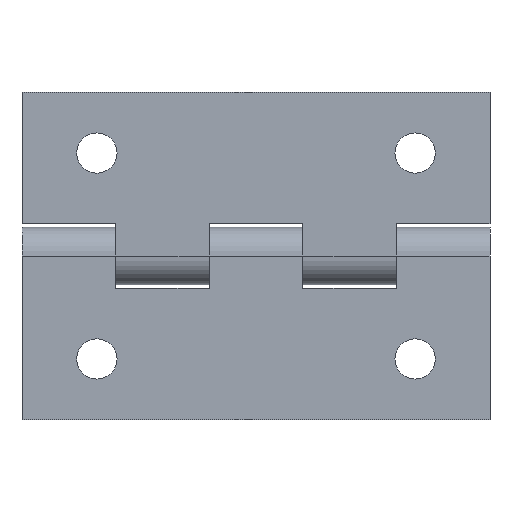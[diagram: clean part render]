
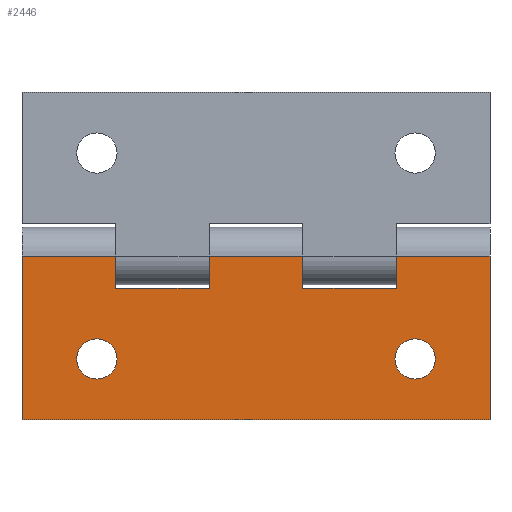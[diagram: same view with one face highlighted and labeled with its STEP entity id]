
A CAD part, front view. The second image highlights one B-rep face of the part: STEP entity #2446.
In plain terms, the highlighted planar face has unit normal (0, -1, 0).
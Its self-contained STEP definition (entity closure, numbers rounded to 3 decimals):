
#14 = VERTEX_POINT ( 'NONE', #2038 ) ;
#21 = CARTESIAN_POINT ( 'NONE',  ( -15., 0., -3.45 ) ) ;
#28 = ORIENTED_EDGE ( 'NONE', *, *, #834, .T. ) ;
#32 = VERTEX_POINT ( 'NONE', #1546 ) ;
#34 = DIRECTION ( 'NONE',  ( 0., 0., -1. ) ) ;
#57 = ORIENTED_EDGE ( 'NONE', *, *, #1215, .T. ) ;
#79 = ORIENTED_EDGE ( 'NONE', *, *, #557, .T. ) ;
#85 = VERTEX_POINT ( 'NONE', #461 ) ;
#106 = VERTEX_POINT ( 'NONE', #2558 ) ;
#122 = VERTEX_POINT ( 'NONE', #265 ) ;
#133 = CIRCLE ( 'NONE', #263, 2.15 ) ;
#166 = EDGE_CURVE ( 'NONE', #1779, #14, #501, .T. ) ;
#175 = ORIENTED_EDGE ( 'NONE', *, *, #403, .T. ) ;
#192 = CARTESIAN_POINT ( 'NONE',  ( 5., 0., -3.45 ) ) ;
#231 = CARTESIAN_POINT ( 'NONE',  ( -25., 0., 0. ) ) ;
#250 = CARTESIAN_POINT ( 'NONE',  ( -15., 0., 3.05 ) ) ;
#262 = LINE ( 'NONE', #250, #2288 ) ;
#263 = AXIS2_PLACEMENT_3D ( 'NONE', #2600, #722, #1935 ) ;
#265 = CARTESIAN_POINT ( 'NONE',  ( -25., 0., 0. ) ) ;
#277 = VERTEX_POINT ( 'NONE', #1795 ) ;
#278 = CARTESIAN_POINT ( 'NONE',  ( 25., 0., -17.5 ) ) ;
#366 = ORIENTED_EDGE ( 'NONE', *, *, #1317, .F. ) ;
#380 = DIRECTION ( 'NONE',  ( -1., 0., 0. ) ) ;
#389 = DIRECTION ( 'NONE',  ( 0., 0., 1. ) ) ;
#403 = EDGE_CURVE ( 'NONE', #2498, #1975, #2085, .T. ) ;
#416 = AXIS2_PLACEMENT_3D ( 'NONE', #562, #1402, #1417 ) ;
#434 = DIRECTION ( 'NONE',  ( 0., 0., 1. ) ) ;
#448 = EDGE_LOOP ( 'NONE', ( #28, #2070 ) ) ;
#461 = CARTESIAN_POINT ( 'NONE',  ( 25., 0., 0. ) ) ;
#466 = CARTESIAN_POINT ( 'NONE',  ( 5., 0., 0. ) ) ;
#467 = AXIS2_PLACEMENT_3D ( 'NONE', #1015, #2090, #389 ) ;
#501 = LINE ( 'NONE', #278, #2082 ) ;
#507 = EDGE_CURVE ( 'NONE', #277, #106, #1044, .T. ) ;
#508 = EDGE_CURVE ( 'NONE', #921, #32, #2667, .T. ) ;
#522 = ORIENTED_EDGE ( 'NONE', *, *, #1842, .T. ) ;
#541 = LINE ( 'NONE', #2208, #2158 ) ;
#557 = EDGE_CURVE ( 'NONE', #122, #14, #1300, .T. ) ;
#562 = CARTESIAN_POINT ( 'NONE',  ( 25., 0., 0. ) ) ;
#577 = DIRECTION ( 'NONE',  ( 0., 1., 0. ) ) ;
#593 = AXIS2_PLACEMENT_3D ( 'NONE', #1613, #577, #2516 ) ;
#629 = DIRECTION ( 'NONE',  ( 0., 1., 0. ) ) ;
#721 = CIRCLE ( 'NONE', #2419, 2.15 ) ;
#722 = DIRECTION ( 'NONE',  ( 0., 1., 0. ) ) ;
#749 = VERTEX_POINT ( 'NONE', #833 ) ;
#751 = CARTESIAN_POINT ( 'NONE',  ( -17., 0., -13.15 ) ) ;
#805 = DIRECTION ( 'NONE',  ( -1., 0., 0. ) ) ;
#810 = DIRECTION ( 'NONE',  ( -1., 0., 0. ) ) ;
#827 = VERTEX_POINT ( 'NONE', #1761 ) ;
#833 = CARTESIAN_POINT ( 'NONE',  ( -15., 0., 0. ) ) ;
#834 = EDGE_CURVE ( 'NONE', #2099, #2631, #133, .T. ) ;
#838 = CARTESIAN_POINT ( 'NONE',  ( 17., 0., -8.85 ) ) ;
#842 = VERTEX_POINT ( 'NONE', #466 ) ;
#853 = DIRECTION ( 'NONE',  ( 0., 0., -1. ) ) ;
#921 = VERTEX_POINT ( 'NONE', #1174 ) ;
#936 = VECTOR ( 'NONE', #34, 1000. ) ;
#1015 = CARTESIAN_POINT ( 'NONE',  ( -17., 0., -11. ) ) ;
#1034 = LINE ( 'NONE', #1276, #1106 ) ;
#1044 = LINE ( 'NONE', #2074, #2173 ) ;
#1059 = VECTOR ( 'NONE', #1714, 1000. ) ;
#1060 = CARTESIAN_POINT ( 'NONE',  ( 25., 0., 0. ) ) ;
#1088 = CARTESIAN_POINT ( 'NONE',  ( 25., 0., 0. ) ) ;
#1097 = DIRECTION ( 'NONE',  ( 0., 0., 1. ) ) ;
#1106 = VECTOR ( 'NONE', #434, 1000. ) ;
#1127 = DIRECTION ( 'NONE',  ( -1., 0., 0. ) ) ;
#1150 = EDGE_CURVE ( 'NONE', #32, #842, #1034, .T. ) ;
#1153 = ORIENTED_EDGE ( 'NONE', *, *, #2448, .T. ) ;
#1168 = EDGE_CURVE ( 'NONE', #749, #122, #1901, .T. ) ;
#1174 = CARTESIAN_POINT ( 'NONE',  ( 15., 0., -3.45 ) ) ;
#1187 = CARTESIAN_POINT ( 'NONE',  ( 25., 0., 0. ) ) ;
#1201 = CARTESIAN_POINT ( 'NONE',  ( 25., 0., 0. ) ) ;
#1215 = EDGE_CURVE ( 'NONE', #106, #827, #1870, .T. ) ;
#1244 = ORIENTED_EDGE ( 'NONE', *, *, #1168, .T. ) ;
#1251 = DIRECTION ( 'NONE',  ( -1., 0., 0. ) ) ;
#1276 = CARTESIAN_POINT ( 'NONE',  ( 5., 0., 3.05 ) ) ;
#1300 = LINE ( 'NONE', #231, #1059 ) ;
#1317 = EDGE_CURVE ( 'NONE', #85, #1779, #1346, .T. ) ;
#1346 = LINE ( 'NONE', #1088, #936 ) ;
#1402 = DIRECTION ( 'NONE',  ( 0., 1., 0. ) ) ;
#1417 = DIRECTION ( 'NONE',  ( 0., 0., 1. ) ) ;
#1541 = LINE ( 'NONE', #1187, #2302 ) ;
#1546 = CARTESIAN_POINT ( 'NONE',  ( 5., 0., -3.45 ) ) ;
#1600 = FACE_BOUND ( 'NONE', #2206, .T. ) ;
#1613 = CARTESIAN_POINT ( 'NONE',  ( 17., 0., -11. ) ) ;
#1633 = DIRECTION ( 'NONE',  ( 0., 0., 1. ) ) ;
#1657 = EDGE_CURVE ( 'NONE', #1975, #2498, #721, .T. ) ;
#1714 = DIRECTION ( 'NONE',  ( 0., 0., -1. ) ) ;
#1752 = VECTOR ( 'NONE', #1251, 1000. ) ;
#1761 = CARTESIAN_POINT ( 'NONE',  ( -15., 0., -3.45 ) ) ;
#1763 = ORIENTED_EDGE ( 'NONE', *, *, #2400, .T. ) ;
#1779 = VERTEX_POINT ( 'NONE', #2581 ) ;
#1795 = CARTESIAN_POINT ( 'NONE',  ( -5., 0., 0. ) ) ;
#1810 = CIRCLE ( 'NONE', #593, 2.15 ) ;
#1818 = EDGE_CURVE ( 'NONE', #827, #749, #262, .T. ) ;
#1838 = VECTOR ( 'NONE', #2700, 1000. ) ;
#1839 = CARTESIAN_POINT ( 'NONE',  ( -17., 0., -11. ) ) ;
#1842 = EDGE_CURVE ( 'NONE', #2572, #921, #541, .T. ) ;
#1857 = CARTESIAN_POINT ( 'NONE',  ( -17., 0., -8.85 ) ) ;
#1858 = ORIENTED_EDGE ( 'NONE', *, *, #166, .F. ) ;
#1862 = ORIENTED_EDGE ( 'NONE', *, *, #1150, .T. ) ;
#1870 = LINE ( 'NONE', #21, #1838 ) ;
#1882 = VECTOR ( 'NONE', #810, 1000. ) ;
#1901 = LINE ( 'NONE', #1060, #1752 ) ;
#1935 = DIRECTION ( 'NONE',  ( 0., 0., 1. ) ) ;
#1951 = VECTOR ( 'NONE', #380, 1000. ) ;
#1975 = VERTEX_POINT ( 'NONE', #751 ) ;
#1984 = ORIENTED_EDGE ( 'NONE', *, *, #507, .T. ) ;
#2038 = CARTESIAN_POINT ( 'NONE',  ( -25., 0., -17.5 ) ) ;
#2070 = ORIENTED_EDGE ( 'NONE', *, *, #2495, .T. ) ;
#2074 = CARTESIAN_POINT ( 'NONE',  ( -5., 0., 3.05 ) ) ;
#2082 = VECTOR ( 'NONE', #1127, 1000. ) ;
#2085 = CIRCLE ( 'NONE', #467, 2.15 ) ;
#2090 = DIRECTION ( 'NONE',  ( 0., 1., 0. ) ) ;
#2099 = VERTEX_POINT ( 'NONE', #838 ) ;
#2122 = CARTESIAN_POINT ( 'NONE',  ( 17., 0., -13.15 ) ) ;
#2158 = VECTOR ( 'NONE', #2441, 1000. ) ;
#2173 = VECTOR ( 'NONE', #853, 1000. ) ;
#2174 = EDGE_LOOP ( 'NONE', ( #1862, #1763, #1984, #57, #2552, #1244, #79, #1858, #366, #1153, #522, #2274 ) ) ;
#2206 = EDGE_LOOP ( 'NONE', ( #175, #2421 ) ) ;
#2208 = CARTESIAN_POINT ( 'NONE',  ( 15., 0., 3.05 ) ) ;
#2231 = LINE ( 'NONE', #1201, #1951 ) ;
#2273 = CARTESIAN_POINT ( 'NONE',  ( 15., 0., 0. ) ) ;
#2274 = ORIENTED_EDGE ( 'NONE', *, *, #508, .T. ) ;
#2288 = VECTOR ( 'NONE', #1097, 1000. ) ;
#2302 = VECTOR ( 'NONE', #805, 1000. ) ;
#2400 = EDGE_CURVE ( 'NONE', #842, #277, #1541, .T. ) ;
#2419 = AXIS2_PLACEMENT_3D ( 'NONE', #1839, #629, #1633 ) ;
#2421 = ORIENTED_EDGE ( 'NONE', *, *, #1657, .T. ) ;
#2425 = FACE_BOUND ( 'NONE', #448, .T. ) ;
#2438 = PLANE ( 'NONE',  #416 ) ;
#2441 = DIRECTION ( 'NONE',  ( 0., 0., -1. ) ) ;
#2446 = ADVANCED_FACE ( 'NONE', ( #2425, #1600, #2649 ), #2438, .F. ) ;
#2448 = EDGE_CURVE ( 'NONE', #85, #2572, #2231, .T. ) ;
#2495 = EDGE_CURVE ( 'NONE', #2631, #2099, #1810, .T. ) ;
#2498 = VERTEX_POINT ( 'NONE', #1857 ) ;
#2516 = DIRECTION ( 'NONE',  ( 0., 0., 1. ) ) ;
#2552 = ORIENTED_EDGE ( 'NONE', *, *, #1818, .T. ) ;
#2558 = CARTESIAN_POINT ( 'NONE',  ( -5., 0., -3.45 ) ) ;
#2572 = VERTEX_POINT ( 'NONE', #2273 ) ;
#2581 = CARTESIAN_POINT ( 'NONE',  ( 25., 0., -17.5 ) ) ;
#2600 = CARTESIAN_POINT ( 'NONE',  ( 17., 0., -11. ) ) ;
#2631 = VERTEX_POINT ( 'NONE', #2122 ) ;
#2649 = FACE_OUTER_BOUND ( 'NONE', #2174, .T. ) ;
#2667 = LINE ( 'NONE', #192, #1882 ) ;
#2700 = DIRECTION ( 'NONE',  ( -1., 0., 0. ) ) ;
